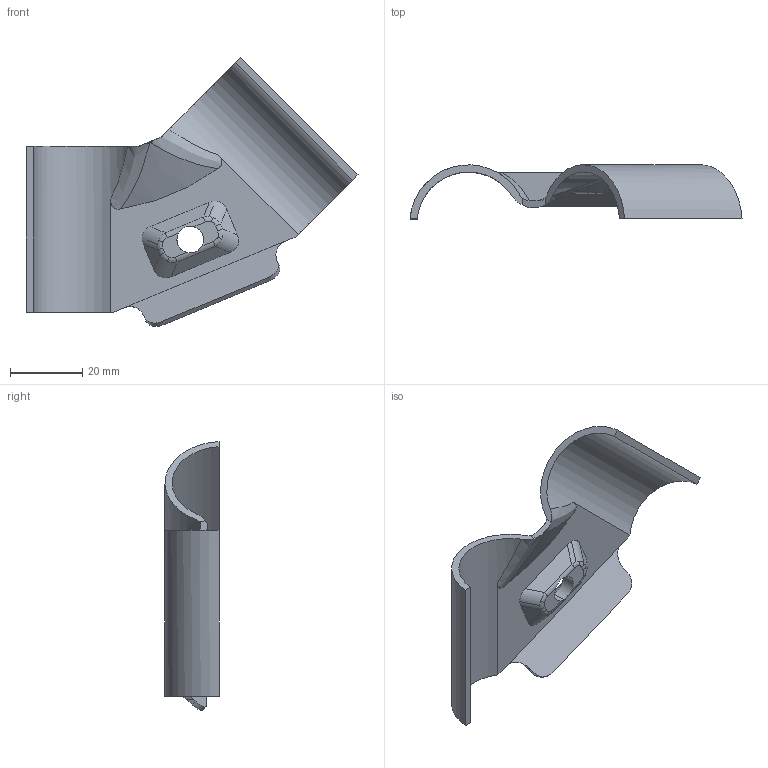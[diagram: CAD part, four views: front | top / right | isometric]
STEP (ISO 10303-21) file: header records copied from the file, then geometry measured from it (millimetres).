
FILE_DESCRIPTION (( 'STEP AP203' ), '1' );
FILE_NAME ('015.100.045.STEP', '2016-10-24T07:40:11', ( '' ), ( '' ), 'SwSTEP 2.0', 'SolidWorks 2016', '' );
FILE_SCHEMA (( 'CONFIG_CONTROL_DESIGN' ));
Length unit declared in the file: millimetre
Products named in the file (1): 015.100.045
Bounding box: 92 x 14.99 x 74.52 mm (x, y, z)
Volume: 9924.4 mm3; surface area: 10635.1 mm2
Topology: 1 solids, 1 shells, 75 faces, 199 edges, 127 vertices
Faces by surface type: cylinder 30, plane 29, bspline 12, torus 3, cone 1
Entity records: 2672 total; most frequent: CARTESIAN_POINT 913, ORIENTED_EDGE 398, DIRECTION 305, EDGE_CURVE 199, VERTEX_POINT 127, AXIS2_PLACEMENT_3D 111, LINE 83, VECTOR 83
